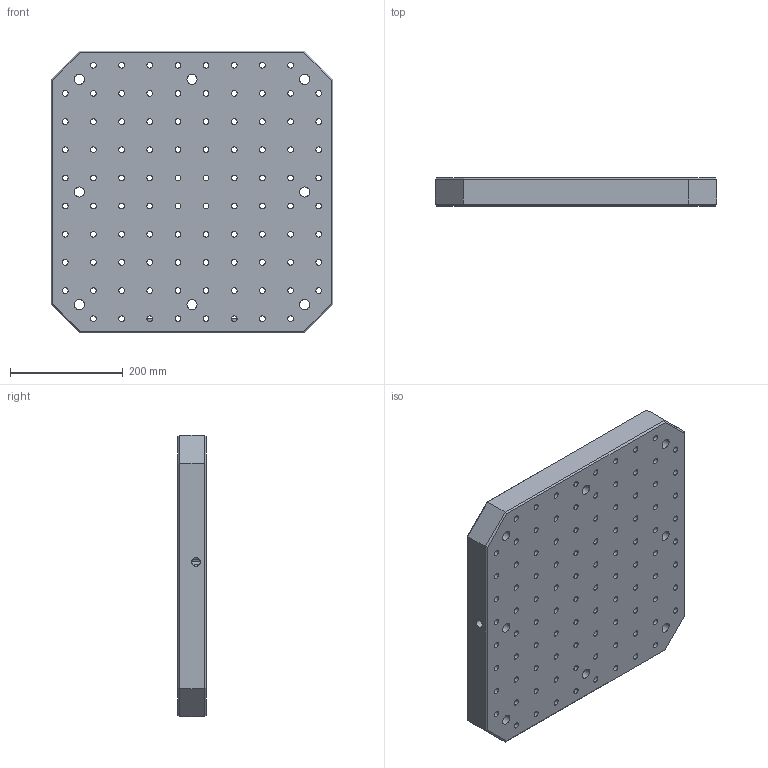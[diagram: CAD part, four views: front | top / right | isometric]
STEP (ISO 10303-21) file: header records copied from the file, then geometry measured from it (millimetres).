
FILE_DESCRIPTION((''),'2;1');
FILE_NAME('FG_WH_BASPL_SQGRDNP002','2026-05-19T10:26:01',('Admin'),(''),'CREO PARAMETRIC BY PTC INC, 2025010','CREO PARAMETRIC BY PTC INC, 2025010','');
FILE_SCHEMA(('CONFIG_CONTROL_DESIGN'));
Length unit declared in the file: millimetre
Products named in the file (1): FG_WH_BASPL_SQGRDNP002
Bounding box: 500 x 50 x 500 mm (x, y, z)
Volume: 11649640 mm3; surface area: 842285 mm2
Topology: 1 solids, 100 shells, 858 faces, 2145 edges, 1488 vertices
Faces by surface type: cylinder 622, plane 230, cone 6
Entity records: 27169 total; most frequent: DIRECTION 5287, CARTESIAN_POINT 4824, ORIENTED_EDGE 3886, AXIS2_PLACEMENT_3D 2301, EDGE_CURVE 2145, VERTEX_POINT 1488, CIRCLE 1442, EDGE_LOOP 1271
